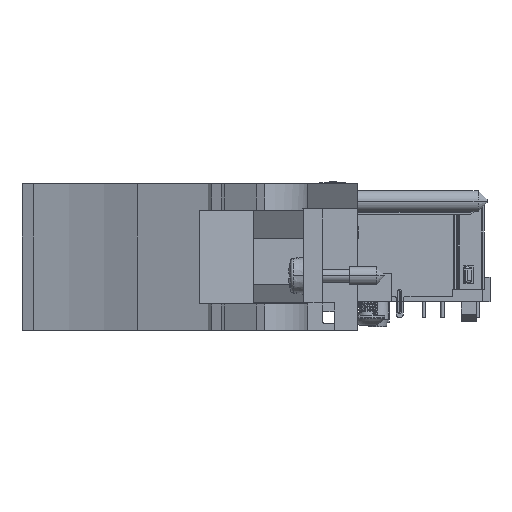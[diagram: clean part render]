
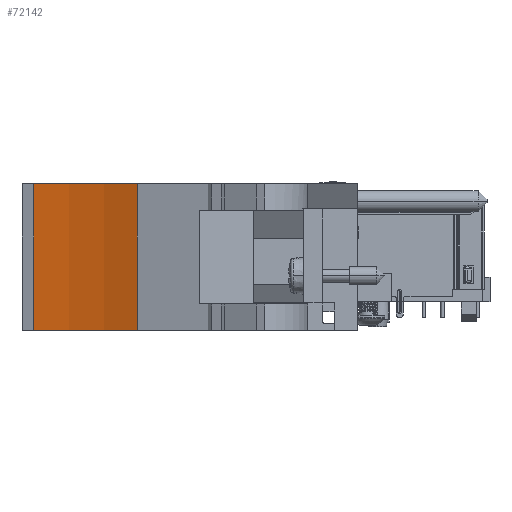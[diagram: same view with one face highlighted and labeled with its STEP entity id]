
A CAD part, front view. The second image highlights one B-rep face of the part: STEP entity #72142.
In plain terms, the highlighted cylindrical face has radius 51.46 mm (diameter 102.919 mm), a partial arc.
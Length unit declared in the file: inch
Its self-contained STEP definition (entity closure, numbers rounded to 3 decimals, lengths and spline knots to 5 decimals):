
#23098=CARTESIAN_POINT('',(-1.97678,-5.95043,0.706));
#23099=DIRECTION('',(0.,0.,1.));
#23100=DIRECTION('',(0.435,0.9,0.));
#23101=AXIS2_PLACEMENT_3D('',#23098,#23099,#23100);
#23443=CARTESIAN_POINT('',(-1.97678,-5.95043,-0.082));
#23444=DIRECTION('',(0.,0.,1.));
#23445=DIRECTION('',(0.435,0.9,0.));
#23446=AXIS2_PLACEMENT_3D('',#23443,#23444,#23445);
#23661=DIRECTION('',(0.,0.,1.));
#23662=VECTOR('',#23661,0.788);
#23663=CARTESIAN_POINT('',(-1.65345,-3.95043,-0.082));
#23664=LINE('',#23663,#23662);
#23669=DIRECTION('',(0.,0.,1.));
#23670=VECTOR('',#23669,0.788);
#23671=CARTESIAN_POINT('',(-1.09548,-4.12619,-0.082));
#23672=LINE('',#23671,#23670);
#37696=CARTESIAN_POINT('',(-1.09548,-4.12619,-0.082));
#37697=CARTESIAN_POINT('',(-1.65345,-3.95043,-0.082));
#37698=VERTEX_POINT('',#37696);
#37699=VERTEX_POINT('',#37697);
#37700=CARTESIAN_POINT('',(-1.09548,-4.12619,0.706));
#37701=CARTESIAN_POINT('',(-1.65345,-3.95043,0.706));
#37702=VERTEX_POINT('',#37700);
#37703=VERTEX_POINT('',#37701);
#72130=CARTESIAN_POINT('',(-1.97678,-5.95043,0.706));
#72131=DIRECTION('',(0.,0.,1.));
#72132=DIRECTION('',(0.,1.,0.));
#72133=AXIS2_PLACEMENT_3D('',#72130,#72131,#72132);
#72134=CYLINDRICAL_SURFACE('',#72133,2.02597);
#72135=ORIENTED_EDGE('',*,*,#71848,.T.);
#72136=ORIENTED_EDGE('',*,*,#72122,.T.);
#72137=ORIENTED_EDGE('',*,*,#71397,.F.);
#72139=ORIENTED_EDGE('',*,*,#72138,.F.);
#72140=EDGE_LOOP('',(#72135,#72136,#72137,#72139));
#72141=FACE_OUTER_BOUND('',#72140,.F.);
#72142=ADVANCED_FACE('',(#72141),#72134,.F.);
#23102=CIRCLE('',#23101,2.02597);
#23447=CIRCLE('',#23446,2.02597);
#71397=EDGE_CURVE('',#37702,#37703,#23102,.T.);
#71848=EDGE_CURVE('',#37698,#37699,#23447,.T.);
#72122=EDGE_CURVE('',#37699,#37703,#23664,.T.);
#72138=EDGE_CURVE('',#37698,#37702,#23672,.T.);
